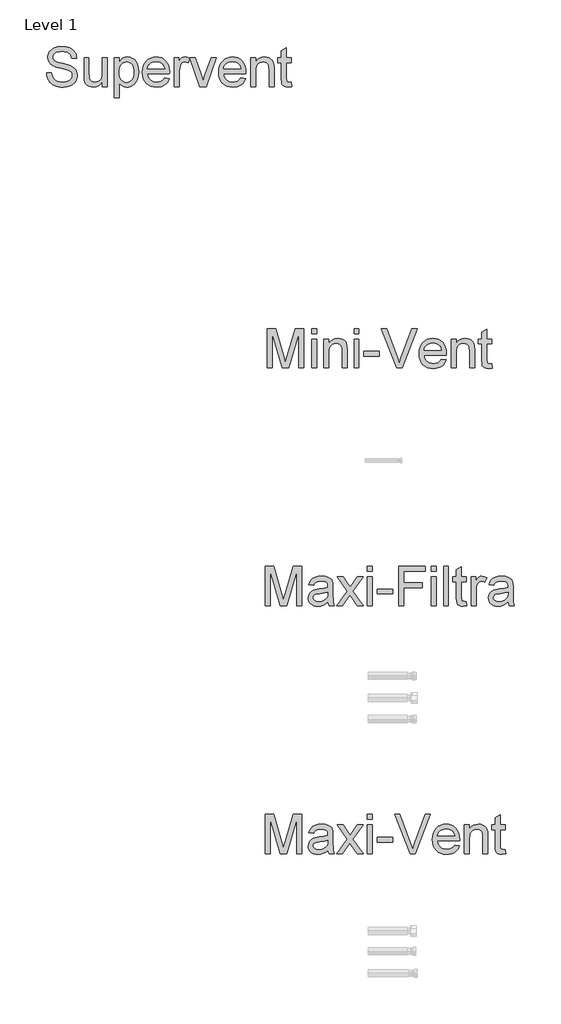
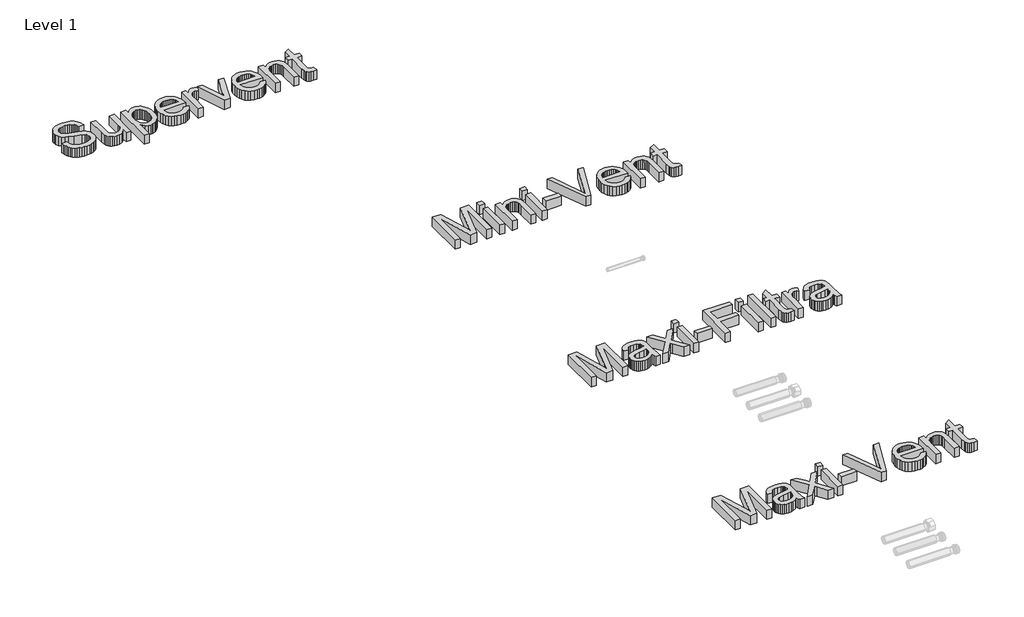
# One storey, part 26 of 29: 4 proxies.
"""IFC4 building model written with IfcOpenShell, lengths in millimetres."""

import ifcopenshell
import ifcopenshell.guid

model = None  # the IFC model being written
_history = None  # IfcOwnerHistory: only IFC2X3 demands one
_inside = {}  # id of a spatial element -> (the spatial element, [elements in it])
_under = {}  # id of a project, library or spatial element -> (it, [spatial elements below it])
_declared = {}  # id of a project -> (the project, [libraries it declares])
_typed = {}  # id of a type object -> (the type object, [elements of that type])
_made_of = {}  # id of a material, layer set ... -> (it, [elements and type objects made of it])


def new_model(schema):
    """Start an empty IFC model of exactly this schema.

    Asked for "IFC4X3", IfcOpenShell would pick the latest addendum, in which some entities
    have other attributes; the version numbers below select the first issue.
    IFC2X3 requires an IfcOwnerHistory on every rooted entity: one is made here for all.
    """
    global model, _history
    if schema == "IFC4X3":
        model = ifcopenshell.file(schema_version=(4, 3, 0, 0))
    else:
        model = ifcopenshell.file(schema=schema)
    _inside.clear()
    _under.clear()
    _declared.clear()
    _typed.clear()
    _made_of.clear()
    _history = None
    if model.schema == "IFC2X3":
        org = make("IfcOrganization", Name="unknown")
        user = make(
            "IfcPersonAndOrganization",
            ThePerson=make("IfcPerson", FamilyName="unknown"),
            TheOrganization=org,
        )
        app = make(
            "IfcApplication",
            ApplicationDeveloper=org,
            Version="unknown",
            ApplicationFullName="unknown",
            ApplicationIdentifier="unknown",
        )
        _history = make(
            "IfcOwnerHistory",
            OwningUser=user,
            OwningApplication=app,
            ChangeAction="ADDED",
            CreationDate=0,
        )
    return model


def make(cls, **values):
    """One entity of the class cls with the attributes given. An attribute that is None is left unset."""
    return model.create_entity(
        cls, **{name: value for name, value in values.items() if value is not None}
    )


def rooted(cls, **values):
    """An entity with a GlobalId (a new one), such as an element, a storey or a relation."""
    return make(cls, GlobalId=ifcopenshell.guid.new(), OwnerHistory=_history, **values)


def si_unit(unit_type, name, prefix=None):
    """IfcSIUnit, for example si_unit("LENGTHUNIT", "METRE", prefix="MILLI")."""
    return make("IfcSIUnit", UnitType=unit_type, Prefix=prefix, Name=name)


def assignment(units):
    """IfcUnitAssignment: the units of a project."""
    return None if units is None else make("IfcUnitAssignment", Units=units)


def point(xyz):
    """IfcCartesianPoint."""
    return None if xyz is None else make("IfcCartesianPoint", Coordinates=xyz)


def direction(xyz):
    """IfcDirection."""
    return None if xyz is None else make("IfcDirection", DirectionRatios=xyz)


def frame(location, z_axis=None, x_axis=None):
    """IfcAxis2Placement3D, a coordinate frame: its origin and axes. An axis left out is left unset."""
    return make(
        "IfcAxis2Placement3D",
        Location=point(location),
        Axis=direction(z_axis),
        RefDirection=direction(x_axis),
    )


def origin():
    """The frame at (0, 0, 0) with its axes left unset."""
    return frame((0.0, 0.0, 0.0))


def origin_with_axes():
    """The frame at (0, 0, 0) with the z axis (0, 0, 1) and the x axis (1, 0, 0) written out."""
    return frame((0.0, 0.0, 0.0), z_axis=(0.0, 0.0, 1.0), x_axis=(1.0, 0.0, 0.0))


def place(relative_to, where):
    """IfcLocalPlacement: puts the frame where relative to a parent placement (None: the world)."""
    return make(
        "IfcLocalPlacement", PlacementRelTo=relative_to, RelativePlacement=where
    )


def context(
    kind, dimensions, precision=None, world=None, true_north=None, identifier=None
):
    """IfcGeometricRepresentationContext, for example the 3D "Model" context."""
    return make(
        "IfcGeometricRepresentationContext",
        ContextIdentifier=identifier,
        ContextType=kind,
        CoordinateSpaceDimension=dimensions,
        Precision=precision,
        WorldCoordinateSystem=world,
        TrueNorth=true_north,
    )


def project(units=None, contexts=None):
    """IfcProject with its units and contexts."""
    return rooted(
        "IfcProject",
        Name="project",
        RepresentationContexts=contexts,
        UnitsInContext=assignment(units),
    )


def spatial(cls, under=None, at=None, **own):
    """A site, building, storey or space (cls), placed at a placement, below another one or the project."""
    s = rooted(cls, ObjectPlacement=at, **own)
    if under is not None:
        _under.setdefault(under.id(), (under, []))[1].append(s)
    return s


def polyline(points):
    """IfcPolyline through the points."""
    return make("IfcPolyline", Points=[point(p) for p in points])


def outline(outer, holes=None, kind="AREA"):
    """IfcArbitraryClosedProfileDef: a profile drawn as a closed curve; with holes, ...WithVoids."""
    if holes is None:
        return make("IfcArbitraryClosedProfileDef", ProfileType=kind, OuterCurve=outer)
    return make(
        "IfcArbitraryProfileDefWithVoids",
        ProfileType=kind,
        OuterCurve=outer,
        InnerCurves=holes,
    )


def extrude(swept, where, along, depth):
    """IfcExtrudedAreaSolid: the profile swept, set in the frame where, extruded along a direction by depth."""
    return make(
        "IfcExtrudedAreaSolid",
        SweptArea=swept,
        Position=where,
        ExtrudedDirection=direction(along),
        Depth=depth,
    )


def shape(context_of_items, identifier, shape_type, items):
    """IfcShapeRepresentation: the items that make up one representation, for example the "Body"."""
    return make(
        "IfcShapeRepresentation",
        ContextOfItems=context_of_items,
        RepresentationIdentifier=identifier,
        RepresentationType=shape_type,
        Items=items,
    )


def made_of(thing, what):
    """Note that an element or type object is made of a material, layer set ...; save() writes the relation."""
    if what is not None:
        _made_of.setdefault(what.id(), (what, []))[1].append(thing)
    return thing


def element(
    cls,
    number,
    at=None,
    inside=None,
    cuts=None,
    type_object=None,
    material=None,
    context=None,
    identifier="Body",
    shape_type=None,
    held_by="IfcProductDefinitionShape",
    body=None,
    shapes=None,
    **own,
):
    """One element of the class cls, such as IfcWall. Its Tag is "e" and its number.

    at: its placement. inside: the storey or other place that contains it. cuts: it is an
    opening in that element (IfcRelVoidsElement). A single representation is given by context,
    identifier, shape_type and body (its items); several are given by shapes. held_by: the class
    of the entity that holds the representations. save() writes the other relations.
    """
    e = rooted(cls, Tag="e%d" % number, ObjectPlacement=at, **own)
    if body is not None:
        shapes = [shape(context, identifier, shape_type, body)]
    if shapes is not None:
        e.Representation = make(held_by, Representations=shapes)
    if inside is not None:
        _inside.setdefault(inside.id(), (inside, []))[1].append(e)
    if cuts is not None:
        rooted(
            "IfcRelVoidsElement", RelatingBuildingElement=cuts, RelatedOpeningElement=e
        )
    if type_object is not None:
        _typed.setdefault(type_object.id(), (type_object, []))[1].append(e)
    return made_of(e, material)


def aggregate(whole, parts):
    """IfcRelAggregates: a whole, such as a stair, and the parts it consists of."""
    return rooted("IfcRelAggregates", RelatingObject=whole, RelatedObjects=parts)


def save(model, path):
    """Write the relations noted so far, then the file.

    IfcRelAggregates (storeys below a building ...), IfcRelContainedInSpatialStructure (elements
    in a storey), IfcRelDefinesByType, IfcRelAssociatesMaterial and IfcRelDeclares: one each for
    every whole, place, type object, material and project.
    """
    for whole, parts in _under.values():
        aggregate(whole, parts)
    for where, things in _inside.values():
        rooted(
            "IfcRelContainedInSpatialStructure",
            RelatedElements=things,
            RelatingStructure=where,
        )
    for kind, things in _typed.values():
        rooted("IfcRelDefinesByType", RelatedObjects=things, RelatingType=kind)
    for what, things in _made_of.values():
        rooted("IfcRelAssociatesMaterial", RelatedObjects=things, RelatingMaterial=what)
    for by, libraries in _declared.values():
        rooted("IfcRelDeclares", RelatingContext=by, RelatedDefinitions=libraries)
    model.write(path)


model = new_model("IFC4")

# Units and contexts
model_context = context("Model", 3, world=origin())
ifc_project = project(units=[si_unit("LENGTHUNIT", "METRE", prefix="MILLI")], contexts=[model_context])

# Site, building, storey
site = spatial("IfcSite", under=ifc_project)
building = spatial("IfcBuilding", under=site)
storey = spatial("IfcBuildingStorey", under=building, Name="Level 1", Elevation=0.0)

# Proxies
placement = place(None, origin())
element("IfcBuildingElementProxy", 1, Name="600mm Arial", ObjectType="600mm Arial", at=placement, inside=storey, context=model_context, shape_type="SweptSolid", body=[
    extrude(outline(polyline([(41847.6999157, 22137.5950523), (41847.6999157, 22740.3329132), (41977.3415308, 22740.3329132), (42100.6555756, 22315.5027851), (42125.5243984, 22226.7696479), (42152.4533605, 22322.860425), (42273.7072661, 22740.3329132), (42403.3488812, 22740.3329132), (42403.3488812, 22137.5950523), (42328.0066486, 22137.5950523), (42328.0066486, 22664.9906805), (42176.5864194, 22137.5950523), (42074.4623775, 22137.5950523), (41923.0421483, 22664.9906805), (41923.0421483, 22137.5950523), (41847.6999157, 22137.5950523)])), origin_with_axes(), (0.0, 0.0, 1.0), 150.0),
    extrude(outline(polyline([(42808.3133815, 22194.1017267), (42772.3161282, 22163.2364273), (42735.2520172, 22143.0397058), (42696.2749198, 22131.8928813), (42654.5387075, 22128.1772732), (42620.9924681, 22130.4121563), (42591.575704, 22137.1168057), (42566.2884154, 22148.2912213), (42545.1306021, 22163.9354031), (42528.424161, 22183.0560698), (42516.4909888, 22204.65994), (42509.3310855, 22228.7470136), (42506.944451, 22255.3172907), (42510.5496946, 22286.5504721), (42521.3654252, 22314.9141739), (42538.0488737, 22339.1943856), (42559.2572707, 22358.1770966), (42584.1812759, 22372.5244944), (42612.0115488, 22382.8987666), (42677.2002384, 22394.2295321), (42754.2347282, 22406.1489087), (42807.8719231, 22420.1284246), (42808.3133815, 22436.9038435), (42803.1262453, 22470.5282579), (42796.6423252, 22482.9810634), (42787.5648369, 22492.5276012), (42771.8746699, 22502.0557449), (42752.7632002, 22508.8615618), (42704.2763532, 22514.3062153), (42659.3947498, 22510.6825777), (42628.0512038, 22499.8116647), (42606.6772599, 22479.7069137), (42591.7044627, 22448.3817618), (42516.3622301, 22457.7995409), (42529.440435, 22499.0023243), (42548.9565749, 22531.3759399), (42576.7316655, 22556.1343982), (42614.5867228, 22574.4917097), (42660.8846719, 22585.8592634), (42713.9884379, 22589.6484479), (42764.9217001, 22586.3007218), (42805.2967491, 22576.2575433), (42835.7389842, 22561.1559874), (42856.8738048, 22542.633129), (42870.8901089, 22519.7324748), (42879.9767941, 22491.4975316), (42883.6556141, 22425.5730781), (42883.6556141, 22331.8367457), (42887.4815868, 22200.9443318), (42893.1469696, 22168.5891104), (42902.4911722, 22137.5950523), (42827.1489396, 22137.5950523), (42815.0824102, 22163.7882503), (42808.3133815, 22194.1017267)]), holes=[polyline([(42808.3133815, 22344.7861919), (42757.6928189, 22332.2414159), (42686.7651703, 22321.6832027), (42621.9443627, 22309.4695204), (42605.0769732, 22301.1185991), (42592.5873795, 22289.6038927), (42584.8618576, 22275.8083179), (42582.2866836, 22260.6147915), (42587.8968841, 22238.2107779), (42604.7274853, 22219.8534664), (42632.4106055, 22207.6029959), (42670.5783625, 22203.5195058), (42711.0453819, 22208.0260602), (42746.8035119, 22221.5457236), (42775.7926131, 22241.4665336), (42795.9525464, 22265.1765282), (42804.8920789, 22289.6038927), (42807.8719231, 22323.4490362), (42808.3133815, 22344.7861919)])]), origin_with_axes(), (0.0, 0.0, 1.0), 150.0),
    extrude(outline(polyline([(42940.1622885, 22137.5950523), (43101.1474496, 22360.0900829), (42949.5800676, 22580.2306689), (43040.2261912, 22580.2306689), (43113.3611319, 22474.2806542), (43147.500581, 22424.2487029), (43177.0782934, 22465.1571808), (43260.3667771, 22580.2306689), (43351.0129008, 22580.2306689), (43191.7935732, 22360.0900829), (43345.1267888, 22137.5950523), (43254.4806652, 22137.5950523), (43162.2158608, 22271.3569457), (43145.2932891, 22295.7843102), (43030.8084122, 22137.5950523), (42940.1622885, 22137.5950523)])), origin_with_axes(), (0.0, 0.0, 1.0), 150.0),
    extrude(outline(polyline([(43411.0512424, 22664.9906805), (43411.0512424, 22740.3329132), (43486.393475, 22740.3329132), (43486.393475, 22664.9906805), (43411.0512424, 22664.9906805)])), origin_with_axes(), (0.0, 0.0, 1.0), 150.0),
    extrude(outline(polyline([(43411.0512424, 22137.5950523), (43411.0512424, 22580.2306689), (43486.393475, 22580.2306689), (43486.393475, 22137.5950523), (43411.0512424, 22137.5950523)])), origin_with_axes(), (0.0, 0.0, 1.0), 150.0),
    extrude(outline(polyline([(43561.7357076, 22316.5328547), (43561.7357076, 22391.8750873), (43797.1801845, 22391.8750873), (43797.1801845, 22316.5328547), (43561.7357076, 22316.5328547)])), origin_with_axes(), (0.0, 0.0, 1.0), 150.0),
    extrude(outline(polyline([(43891.3579753, 22137.5950523), (43891.3579753, 22740.3329132), (44296.3224756, 22740.3329132), (44296.3224756, 22664.9906805), (43966.7002079, 22664.9906805), (43966.7002079, 22486.0528781), (44249.2335802, 22486.0528781), (44249.2335802, 22410.7106455), (43966.7002079, 22410.7106455), (43966.7002079, 22137.5950523), (43891.3579753, 22137.5950523)])), origin_with_axes(), (0.0, 0.0, 1.0), 150.0),
    extrude(outline(polyline([(44390.5002663, 22137.5950523), (44390.5002663, 22580.2306689), (44465.8424989, 22580.2306689), (44465.8424989, 22137.5950523), (44390.5002663, 22137.5950523)])), origin_with_axes(), (0.0, 0.0, 1.0), 150.0),
    extrude(outline(polyline([(44390.5002663, 22664.9906805), (44390.5002663, 22740.3329132), (44465.8424989, 22740.3329132), (44465.8424989, 22664.9906805), (44390.5002663, 22664.9906805)])), origin_with_axes(), (0.0, 0.0, 1.0), 150.0),
    extrude(outline(polyline([(44578.8558479, 22137.5950523), (44578.8558479, 22740.3329132), (44654.1980805, 22740.3329132), (44654.1980805, 22137.5950523), (44578.8558479, 22137.5950523)])), origin_with_axes(), (0.0, 0.0, 1.0), 150.0),
    extrude(outline(polyline([(44927.3136737, 22200.429297), (44936.7314528, 22135.3877603), (44880.3719311, 22128.1772732), (44844.209131, 22131.3042701), (44817.2433807, 22140.685261), (44798.1870934, 22155.1430234), (44785.7526819, 22173.500335), (44778.9100768, 22205.027822), (44776.6292085, 22258.9961107), (44776.6292085, 22504.8884362), (44720.122534, 22504.8884362), (44720.122534, 22580.2306689), (44776.6292085, 22580.2306689), (44776.6292085, 22687.7993642), (44851.9714411, 22732.0923565), (44851.9714411, 22580.2306689), (44927.3136737, 22580.2306689), (44927.3136737, 22504.8884362), (44851.9714411, 22504.8884362), (44851.9714411, 22261.2034026), (44855.9445666, 22222.355064), (44868.8204365, 22208.5962773), (44879.6913494, 22204.7886987), (44894.4985997, 22203.5195058), (44927.3136737, 22200.429297)])), origin_with_axes(), (0.0, 0.0, 1.0), 150.0),
    extrude(outline(polyline([(45002.6559063, 22137.5950523), (45002.6559063, 22580.2306689), (45068.5803598, 22580.2306689), (45068.5803598, 22514.7476737), (45092.9341479, 22552.7130956), (45115.3749496, 22575.0803209), (45137.8893277, 22586.0064162), (45162.463845, 22589.6484479), (45199.9878085, 22583.8359124), (45238.1003832, 22566.3983058), (45212.9372547, 22498.8551715), (45186.4497511, 22510.4434544), (45159.9622474, 22514.3062153), (45137.4662634, 22510.5906072), (45117.3615124, 22499.4437827), (45101.1195223, 22481.7118706), (45090.2118212, 22458.2409993), (45081.0515595, 22416.155299), (45077.9981389, 22370.243626), (45077.9981389, 22137.5950523), (45002.6559063, 22137.5950523)])), origin_with_axes(), (0.0, 0.0, 1.0), 150.0),
    extrude(outline(polyline([(45567.7226509, 22194.1017267), (45531.7253977, 22163.2364273), (45494.6612867, 22143.0397058), (45455.6841893, 22131.8928813), (45413.9479769, 22128.1772732), (45380.4017375, 22130.4121563), (45350.9849734, 22137.1168057), (45325.6976848, 22148.2912213), (45304.5398715, 22163.9354031), (45287.8334304, 22183.0560698), (45275.9002582, 22204.65994), (45268.7403549, 22228.7470136), (45266.3537204, 22255.3172907), (45269.958964, 22286.5504721), (45280.7746947, 22314.9141739), (45297.4581431, 22339.1943856), (45318.6665402, 22358.1770966), (45343.5905453, 22372.5244944), (45371.4208183, 22382.8987666), (45436.6095078, 22394.2295321), (45513.6439976, 22406.1489087), (45567.2811925, 22420.1284246), (45567.7226509, 22436.9038435), (45562.5355148, 22470.5282579), (45556.0515946, 22482.9810634), (45546.9741064, 22492.5276012), (45531.2839393, 22502.0557449), (45512.1724696, 22508.8615618), (45463.6856227, 22514.3062153), (45418.8040192, 22510.6825777), (45387.4604733, 22499.8116647), (45366.0865293, 22479.7069137), (45351.1137321, 22448.3817618), (45275.7714995, 22457.7995409), (45288.8497045, 22499.0023243), (45308.3658443, 22531.3759399), (45336.1409349, 22556.1343982), (45373.9959922, 22574.4917097), (45420.2939413, 22585.8592634), (45473.3977073, 22589.6484479), (45524.3309696, 22586.3007218), (45564.7060185, 22576.2575433), (45595.1482536, 22561.1559874), (45616.2830743, 22542.633129), (45630.2993783, 22519.7324748), (45639.3860636, 22491.4975316), (45643.0648835, 22425.5730781), (45643.0648835, 22331.8367457), (45646.8908563, 22200.9443318), (45652.556239, 22168.5891104), (45661.9004417, 22137.5950523), (45586.558209, 22137.5950523), (45574.4916796, 22163.7882503), (45567.7226509, 22194.1017267)]), holes=[polyline([(45567.7226509, 22344.7861919), (45517.1020884, 22332.2414159), (45446.1744397, 22321.6832027), (45381.3536321, 22309.4695204), (45364.4862427, 22301.1185991), (45351.9966489, 22289.6038927), (45344.271127, 22275.8083179), (45341.6959531, 22260.6147915), (45347.3061535, 22238.2107779), (45364.1367548, 22219.8534664), (45391.8198749, 22207.6029959), (45429.9876319, 22203.5195058), (45470.4546514, 22208.0260602), (45506.2127813, 22221.5457236), (45535.2018825, 22241.4665336), (45555.3618159, 22265.1765282), (45564.3013483, 22289.6038927), (45567.2811925, 22323.4490362), (45567.7226509, 22344.7861919)])]), origin_with_axes(), (0.0, 0.0, 1.0), 150.0),
])
element("IfcBuildingElementProxy", 2, Name="600mm Arial", ObjectType="600mm Arial", at=placement, inside=storey, context=model_context, shape_type="SweptSolid", body=[
    extrude(outline(polyline([(41847.6999157, 18337.5950523), (41847.6999157, 18940.3329132), (41977.3415308, 18940.3329132), (42100.6555756, 18515.5027851), (42125.5243984, 18426.7696479), (42152.4533605, 18522.860425), (42273.7072661, 18940.3329132), (42403.3488812, 18940.3329132), (42403.3488812, 18337.5950523), (42328.0066486, 18337.5950523), (42328.0066486, 18864.9906805), (42176.5864194, 18337.5950523), (42074.4623775, 18337.5950523), (41923.0421483, 18864.9906805), (41923.0421483, 18337.5950523), (41847.6999157, 18337.5950523)])), origin_with_axes(), (0.0, 0.0, 1.0), 150.0),
    extrude(outline(polyline([(42808.3133815, 18394.1017267), (42772.3161282, 18363.2364273), (42735.2520172, 18343.0397058), (42696.2749198, 18331.8928813), (42654.5387075, 18328.1772732), (42620.9924681, 18330.4121563), (42591.575704, 18337.1168057), (42566.2884154, 18348.2912213), (42545.1306021, 18363.9354031), (42528.424161, 18383.0560698), (42516.4909888, 18404.65994), (42509.3310855, 18428.7470136), (42506.944451, 18455.3172907), (42510.5496946, 18486.5504721), (42521.3654252, 18514.9141739), (42538.0488737, 18539.1943856), (42559.2572707, 18558.1770966), (42584.1812759, 18572.5244944), (42612.0115488, 18582.8987666), (42677.2002384, 18594.2295321), (42754.2347282, 18606.1489087), (42807.8719231, 18620.1284246), (42808.3133815, 18636.9038435), (42803.1262453, 18670.5282579), (42796.6423252, 18682.9810634), (42787.5648369, 18692.5276012), (42771.8746699, 18702.0557449), (42752.7632002, 18708.8615618), (42704.2763532, 18714.3062153), (42659.3947498, 18710.6825777), (42628.0512038, 18699.8116647), (42606.6772599, 18679.7069137), (42591.7044627, 18648.3817618), (42516.3622301, 18657.7995409), (42529.440435, 18699.0023243), (42548.9565749, 18731.3759399), (42576.7316655, 18756.1343982), (42614.5867228, 18774.4917097), (42660.8846719, 18785.8592634), (42713.9884379, 18789.6484479), (42764.9217001, 18786.3007218), (42805.2967491, 18776.2575433), (42835.7389842, 18761.1559874), (42856.8738048, 18742.633129), (42870.8901089, 18719.7324748), (42879.9767941, 18691.4975316), (42883.6556141, 18625.5730781), (42883.6556141, 18531.8367457), (42887.4815868, 18400.9443318), (42893.1469696, 18368.5891104), (42902.4911722, 18337.5950523), (42827.1489396, 18337.5950523), (42815.0824102, 18363.7882503), (42808.3133815, 18394.1017267)]), holes=[polyline([(42808.3133815, 18544.7861919), (42757.6928189, 18532.2414159), (42686.7651703, 18521.6832027), (42621.9443627, 18509.4695204), (42605.0769732, 18501.1185991), (42592.5873795, 18489.6038927), (42584.8618576, 18475.8083179), (42582.2866836, 18460.6147915), (42587.8968841, 18438.2107779), (42604.7274853, 18419.8534664), (42632.4106055, 18407.6029959), (42670.5783625, 18403.5195058), (42711.0453819, 18408.0260602), (42746.8035119, 18421.5457236), (42775.7926131, 18441.4665336), (42795.9525464, 18465.1765282), (42804.8920789, 18489.6038927), (42807.8719231, 18523.4490362), (42808.3133815, 18544.7861919)])]), origin_with_axes(), (0.0, 0.0, 1.0), 150.0),
    extrude(outline(polyline([(42940.1622885, 18337.5950523), (43101.1474496, 18560.0900829), (42949.5800676, 18780.2306689), (43040.2261912, 18780.2306689), (43113.3611319, 18674.2806542), (43147.500581, 18624.2487029), (43177.0782934, 18665.1571808), (43260.3667771, 18780.2306689), (43351.0129008, 18780.2306689), (43191.7935732, 18560.0900829), (43345.1267888, 18337.5950523), (43254.4806652, 18337.5950523), (43162.2158608, 18471.3569457), (43145.2932891, 18495.7843102), (43030.8084122, 18337.5950523), (42940.1622885, 18337.5950523)])), origin_with_axes(), (0.0, 0.0, 1.0), 150.0),
    extrude(outline(polyline([(43411.0512424, 18864.9906805), (43411.0512424, 18940.3329132), (43486.393475, 18940.3329132), (43486.393475, 18864.9906805), (43411.0512424, 18864.9906805)])), origin_with_axes(), (0.0, 0.0, 1.0), 150.0),
    extrude(outline(polyline([(43411.0512424, 18337.5950523), (43411.0512424, 18780.2306689), (43486.393475, 18780.2306689), (43486.393475, 18337.5950523), (43411.0512424, 18337.5950523)])), origin_with_axes(), (0.0, 0.0, 1.0), 150.0),
    extrude(outline(polyline([(43561.7357076, 18516.5328547), (43561.7357076, 18591.8750873), (43797.1801845, 18591.8750873), (43797.1801845, 18516.5328547), (43561.7357076, 18516.5328547)])), origin_with_axes(), (0.0, 0.0, 1.0), 150.0),
    extrude(outline(polyline([(44069.4128609, 18337.5950523), (43829.5538001, 18940.3329132), (43910.1935334, 18940.3329132), (44070.7372361, 18506.0850061), (44103.2580045, 18408.2283953), (44135.3373145, 18506.0850061), (44296.3224756, 18940.3329132), (44376.9622089, 18940.3329132), (44147.2566911, 18337.5950523), (44069.4128609, 18337.5950523)])), origin_with_axes(), (0.0, 0.0, 1.0), 150.0),
    extrude(outline(polyline([(44747.4929544, 18469.4439593), (44821.3636591, 18460.0261803), (44810.0374922, 18430.4392708), (44794.7473967, 18404.3656344), (44775.4933728, 18381.805271), (44752.2754204, 18362.7581807), (44725.3326628, 18347.6290337), (44694.9042232, 18336.8225001), (44660.9901018, 18330.3385799), (44623.5902985, 18328.1772732), (44576.8416939, 18331.9066769), (44535.188255, 18343.0948881), (44498.6299818, 18361.7419067), (44467.1668741, 18387.8477328), (44441.8657899, 18420.6857994), (44423.7935869, 18459.5295396), (44412.9502651, 18504.3789533), (44409.3358245, 18555.2340406), (44412.9870533, 18607.8135748), (44423.9407397, 18654.1575091), (44442.1968837, 18694.2658436), (44467.7554853, 18728.1385783), (44499.1358195, 18755.0491463), (44534.8571612, 18774.2709805), (44574.9195105, 18785.8040811), (44619.3228673, 18789.6484479), (44662.2960829, 18785.8132781), (44701.1582172, 18774.3077687), (44735.9092701, 18755.1319197), (44766.5492418, 18728.2857311), (44791.5606189, 18694.4865728), (44809.4258883, 18654.4518147), (44820.14505, 18608.1814568), (44823.7181038, 18555.675499), (44823.2766455, 18535.3684129), (44484.6780571, 18535.3684129), (44489.0420573, 18505.3032568), (44497.7194738, 18478.972103), (44510.7103068, 18456.3749515), (44528.0145561, 18437.5118022), (44548.6757287, 18422.6401725), (44571.7373313, 18412.0175799), (44597.1993638, 18405.6440243), (44625.0618265, 18403.5195058), (44665.1609639, 18407.4558431), (44698.9325311, 18419.2648552), (44726.3765279, 18439.6823059), (44747.4929544, 18469.4439593)]), holes=[polyline([(44484.6780571, 18610.7106455), (44748.3758712, 18610.7106455), (44738.18554, 18650.5154774), (44729.4207514, 18666.1688563), (44718.2095476, 18678.9895438), (44697.6633382, 18694.4405876), (44674.2844374, 18705.4770474), (44648.0728453, 18712.0989234), (44619.0285617, 18714.3062153), (44592.5364596, 18712.5449803), (44568.2424523, 18707.2612751), (44546.14654, 18698.4550999), (44526.2487225, 18686.1264545), (44509.5514785, 18670.8455561), (44497.0572862, 18653.1826218), (44488.7661458, 18633.1376516), (44484.6780571, 18610.7106455)])]), origin_with_axes(), (0.0, 0.0, 1.0), 150.0),
    extrude(outline(polyline([(44899.0603365, 18337.5950523), (44899.0603365, 18780.2306689), (44974.4025691, 18780.2306689), (44974.4025691, 18718.4264937), (45000.577373, 18749.5860987), (45032.0128895, 18771.8429594), (45068.7091185, 18785.1970758), (45110.6660601, 18789.6484479), (45147.8037475, 18786.0615985), (45181.814438, 18775.3010501), (45210.1781398, 18758.7095721), (45230.3748613, 18737.6299338), (45244.0784656, 18712.1173175), (45252.9628158, 18682.2269053), (45256.9359414, 18609.3862703), (45256.9359414, 18337.5950523), (45181.5937088, 18337.5950523), (45181.5937088, 18599.2327272), (45179.423205, 18638.1914305), (45172.9116937, 18665.8929448), (45160.9003465, 18685.7401784), (45142.2303353, 18701.1360399), (45118.2996115, 18711.0136715), (45090.5061268, 18714.3062153), (45067.6284652, 18712.4576083), (45046.3786814, 18706.9117872), (45026.7567755, 18697.6687521), (45008.7627474, 18684.7285029), (44993.7301694, 18666.6195117), (44982.9926137, 18641.8702505), (44976.5500802, 18610.4807192), (44974.4025691, 18572.450918), (44974.4025691, 18337.5950523), (44899.0603365, 18337.5950523)])), origin_with_axes(), (0.0, 0.0, 1.0), 150.0),
    extrude(outline(polyline([(45520.6337555, 18400.429297), (45530.0515346, 18335.3877603), (45473.6920129, 18328.1772732), (45437.5292128, 18331.3042701), (45410.5634626, 18340.685261), (45391.5071752, 18355.1430234), (45379.0727638, 18373.500335), (45372.2301587, 18405.027822), (45369.9492903, 18458.9961107), (45369.9492903, 18704.8884362), (45313.4426158, 18704.8884362), (45313.4426158, 18780.2306689), (45369.9492903, 18780.2306689), (45369.9492903, 18887.7993642), (45445.2915229, 18932.0923565), (45445.2915229, 18780.2306689), (45520.6337555, 18780.2306689), (45520.6337555, 18704.8884362), (45445.2915229, 18704.8884362), (45445.2915229, 18461.2034026), (45449.2646484, 18422.355064), (45462.1405183, 18408.5962773), (45473.0114312, 18404.7886987), (45487.8186815, 18403.5195058), (45520.6337555, 18400.429297)])), origin_with_axes(), (0.0, 0.0, 1.0), 150.0),
])
element("IfcBuildingElementProxy", 3, Name="600mm Arial", ObjectType="600mm Arial", at=placement, inside=storey, context=model_context, shape_type="SweptSolid", body=[
    extrude(outline(polyline([(41879.5231168, 25779.1748039), (41879.5231168, 26381.9126648), (42009.1647319, 26381.9126648), (42132.4787767, 25957.0825368), (42157.3475995, 25868.3493996), (42184.2765616, 25964.4401767), (42305.5304672, 26381.9126648), (42435.1720823, 26381.9126648), (42435.1720823, 25779.1748039), (42359.8298497, 25779.1748039), (42359.8298497, 26306.5704322), (42208.4096205, 25779.1748039), (42106.2855786, 25779.1748039), (41954.8653494, 26306.5704322), (41954.8653494, 25779.1748039), (41879.5231168, 25779.1748039)])), origin_with_axes(), (0.0, 0.0, 1.0), 150.0),
    extrude(outline(polyline([(42557.6032103, 25779.1748039), (42557.6032103, 26221.8104205), (42632.9454429, 26221.8104205), (42632.9454429, 25779.1748039), (42557.6032103, 25779.1748039)])), origin_with_axes(), (0.0, 0.0, 1.0), 150.0),
    extrude(outline(polyline([(42557.6032103, 26306.5704322), (42557.6032103, 26381.9126648), (42632.9454429, 26381.9126648), (42632.9454429, 26306.5704322), (42557.6032103, 26306.5704322)])), origin_with_axes(), (0.0, 0.0, 1.0), 150.0),
    extrude(outline(polyline([(42745.9587918, 25779.1748039), (42745.9587918, 26221.8104205), (42821.3010244, 26221.8104205), (42821.3010244, 26160.0062453), (42847.4758284, 26191.1658503), (42878.9113449, 26213.422711), (42915.6075739, 26226.7768275), (42957.5645154, 26231.2281996), (42994.7022029, 26227.6413502), (43028.7128933, 26216.8808018), (43057.0765951, 26200.2893238), (43077.2733167, 26179.2096855), (43090.976921, 26153.6970691), (43099.8612712, 26123.806657), (43103.8343967, 26050.966022), (43103.8343967, 25779.1748039), (43028.4921641, 25779.1748039), (43028.4921641, 26040.8124789), (43026.3216603, 26079.7711822), (43019.810149, 26107.4726964), (43007.7988019, 26127.3199301), (42989.1287906, 26142.7157916), (42965.1980668, 26152.5934231), (42937.4045821, 26155.885967), (42914.5269205, 26154.03736), (42893.2771368, 26148.4915389), (42873.6552309, 26139.2485038), (42855.6612028, 26126.3082546), (42840.6286247, 26108.1992634), (42829.891069, 26083.4500022), (42823.4485356, 26052.0604709), (42821.3010244, 26014.0306697), (42821.3010244, 25779.1748039), (42745.9587918, 25779.1748039)])), origin_with_axes(), (0.0, 0.0, 1.0), 150.0),
    extrude(outline(polyline([(43207.4299666, 25779.1748039), (43207.4299666, 26221.8104205), (43282.7721992, 26221.8104205), (43282.7721992, 25779.1748039), (43207.4299666, 25779.1748039)])), origin_with_axes(), (0.0, 0.0, 1.0), 150.0),
    extrude(outline(polyline([(43207.4299666, 26306.5704322), (43207.4299666, 26381.9126648), (43282.7721992, 26381.9126648), (43282.7721992, 26306.5704322), (43207.4299666, 26306.5704322)])), origin_with_axes(), (0.0, 0.0, 1.0), 150.0),
    extrude(outline(polyline([(43358.1144318, 25958.1126064), (43358.1144318, 26033.454839), (43593.5589087, 26033.454839), (43593.5589087, 25958.1126064), (43358.1144318, 25958.1126064)])), origin_with_axes(), (0.0, 0.0, 1.0), 150.0),
    extrude(outline(polyline([(43865.7915851, 25779.1748039), (43625.9325243, 26381.9126648), (43706.5722576, 26381.9126648), (43867.1159603, 25947.6647577), (43899.6367287, 25849.808147), (43931.7160387, 25947.6647577), (44092.7011998, 26381.9126648), (44173.3409331, 26381.9126648), (43943.6354153, 25779.1748039), (43865.7915851, 25779.1748039)])), origin_with_axes(), (0.0, 0.0, 1.0), 150.0),
    extrude(outline(polyline([(44543.8716786, 25911.023711), (44617.7423833, 25901.6059319), (44606.4162163, 25872.0190225), (44591.1261209, 25845.9453861), (44571.872097, 25823.3850227), (44548.6541446, 25804.3379324), (44521.711387, 25789.2087854), (44491.2829474, 25778.4022518), (44457.368826, 25771.9183316), (44419.9690227, 25769.7570249), (44373.2204181, 25773.4864286), (44331.5669792, 25784.6746398), (44295.008706, 25803.3216584), (44263.5455983, 25829.4274845), (44238.2445141, 25862.2655511), (44220.1723111, 25901.1092912), (44209.3289893, 25945.958705), (44205.7145487, 25996.8137923), (44209.3657775, 26049.3933264), (44220.3194639, 26095.7372608), (44238.5756079, 26135.8455953), (44264.1342095, 26169.71833), (44295.5145437, 26196.628898), (44331.2358854, 26215.8507322), (44371.2982347, 26227.3838328), (44415.7015915, 26231.2281996), (44458.6748071, 26227.3930298), (44497.5369413, 26215.8875204), (44532.2879943, 26196.7116714), (44562.927966, 26169.8654828), (44587.9393431, 26136.0663245), (44605.8046125, 26096.0315664), (44616.5237742, 26049.7612084), (44620.096828, 25997.2552507), (44619.6553696, 25976.9481645), (44281.0567813, 25976.9481645), (44285.4207815, 25946.8830085), (44294.098198, 25920.5518547), (44307.089031, 25897.9547031), (44324.3932803, 25879.0915538), (44345.0544529, 25864.2199242), (44368.1160554, 25853.5973316), (44393.578088, 25847.223776), (44421.4405506, 25845.0992575), (44461.5396881, 25849.0355948), (44495.3112553, 25860.8446069), (44522.7552521, 25881.2620576), (44543.8716786, 25911.023711)]), holes=[polyline([(44281.0567813, 26052.2903972), (44544.7545954, 26052.2903972), (44534.5642642, 26092.095229), (44525.7994756, 26107.7486079), (44514.5882718, 26120.5692955), (44494.0420624, 26136.0203393), (44470.6631616, 26147.0567991), (44444.4515694, 26153.678675), (44415.4072859, 26155.885967), (44388.9151837, 26154.1247319), (44364.6211765, 26148.8410268), (44342.5252642, 26140.0348515), (44322.6274467, 26127.7062062), (44305.9302027, 26112.4253078), (44293.4360104, 26094.7623735), (44285.14487, 26074.7174033), (44281.0567813, 26052.2903972)])]), origin_with_axes(), (0.0, 0.0, 1.0), 150.0),
    extrude(outline(polyline([(44695.4390607, 25779.1748039), (44695.4390607, 26221.8104205), (44770.7812933, 26221.8104205), (44770.7812933, 26160.0062453), (44796.9560972, 26191.1658503), (44828.3916137, 26213.422711), (44865.0878427, 26226.7768275), (44907.0447843, 26231.2281996), (44944.1824717, 26227.6413502), (44978.1931621, 26216.8808018), (45006.556864, 26200.2893238), (45026.7535855, 26179.2096855), (45040.4571898, 26153.6970691), (45049.34154, 26123.806657), (45053.3146656, 26050.966022), (45053.3146656, 25779.1748039), (44977.9724329, 25779.1748039), (44977.9724329, 26040.8124789), (44975.8019292, 26079.7711822), (44969.2904179, 26107.4726964), (44957.2790707, 26127.3199301), (44938.6090595, 26142.7157916), (44914.6783357, 26152.5934231), (44886.8848509, 26155.885967), (44864.0071894, 26154.03736), (44842.7574056, 26148.4915389), (44823.1354997, 26139.2485038), (44805.1414716, 26126.3082546), (44790.1088936, 26108.1992634), (44779.3713379, 26083.4500022), (44772.9288044, 26052.0604709), (44770.7812933, 26014.0306697), (44770.7812933, 25779.1748039), (44695.4390607, 25779.1748039)])), origin_with_axes(), (0.0, 0.0, 1.0), 150.0),
    extrude(outline(polyline([(45317.0124797, 25842.0090487), (45326.4302588, 25776.967512), (45270.0707371, 25769.7570249), (45233.907937, 25772.8840218), (45206.9421867, 25782.2650127), (45187.8858994, 25796.7227751), (45175.451488, 25815.0800867), (45168.6088829, 25846.6075737), (45166.3280145, 25900.5758623), (45166.3280145, 26146.4681879), (45109.82134, 26146.4681879), (45109.82134, 26221.8104205), (45166.3280145, 26221.8104205), (45166.3280145, 26329.3791159), (45241.6702471, 26373.6721081), (45241.6702471, 26221.8104205), (45317.0124797, 26221.8104205), (45317.0124797, 26146.4681879), (45241.6702471, 26146.4681879), (45241.6702471, 25902.7831543), (45245.6433726, 25863.9348156), (45258.5192425, 25850.176029), (45269.3901554, 25846.3684504), (45284.1974057, 25845.0992575), (45317.0124797, 25842.0090487)])), origin_with_axes(), (0.0, 0.0, 1.0), 150.0),
])
element("IfcBuildingElementProxy", 4, Name="600mm Arial", ObjectType="600mm Arial", at=placement, inside=storey, context=model_context, shape_type="SweptSolid", body=[
    extrude(outline(polyline([(38497.4834675, 30297.4059032), (38572.8257001, 30297.4059032), (38581.470927, 30255.5961145), (38597.1059117, 30221.9900942), (38621.496488, 30195.3186495), (38656.4084894, 30174.3125876), (38699.0828008, 30160.6825597), (38746.7603074, 30156.1392171), (38788.735643, 30159.5789137), (38825.4870544, 30169.8980037), (38855.2671019, 30186.2319643), (38876.3283461, 30207.7162728), (38888.854728, 30232.3827606), (38893.0301887, 30258.2632589), (38889.9031917, 30283.4815697), (38880.5222008, 30305.2785779), (38861.4659135, 30323.8750128), (38829.3130271, 30339.4916035), (38719.6106161, 30368.2599755), (38647.5977156, 30387.2978687), (38601.5204957, 30405.416057), (38564.0149263, 30430.7631265), (38537.4354521, 30461.4812731), (38521.5981322, 30496.9083092), (38516.3190256, 30536.3820473), (38517.951502, 30558.8182505), (38522.848931, 30580.5094926), (38531.0113128, 30601.4557737), (38542.4386473, 30621.6570938), (38557.0021757, 30640.2903168), (38574.5731395, 30656.5323069), (38595.1515386, 30670.383064), (38618.7373731, 30681.8425882), (38671.7491686, 30697.2384497), (38730.4263468, 30702.3704035), (38793.9963556, 30696.9993264), (38849.6201132, 30680.886095), (38873.9555072, 30668.8839449), (38895.311057, 30654.3618031), (38913.6867627, 30637.3196697), (38929.0826242, 30617.7575446), (38941.3790799, 30596.2456449), (38950.4565681, 30573.3541878), (38956.3150889, 30549.0831732), (38958.9546422, 30523.432601), (38883.6124096, 30523.432601), (38878.5724263, 30547.4736894), (38869.7800466, 30568.3877809), (38857.2352705, 30586.1748753), (38840.9380981, 30600.8349728), (38820.5850268, 30612.294497), (38795.8725537, 30620.4798714), (38766.8006791, 30625.391096), (38733.3694028, 30627.0281709), (38698.8712687, 30625.4094901), (38669.3947238, 30620.5534478), (38644.9397682, 30612.4600439), (38625.5064018, 30601.1292784), (38610.6991515, 30587.5084476), (38600.1225441, 30572.5448474), (38593.7765797, 30556.238478), (38591.6612582, 30538.5893392), (38593.1603773, 30523.4050099), (38597.6577347, 30509.6370262), (38605.1533304, 30497.2853882), (38615.6471643, 30486.3500959), (38632.1650659, 30475.9942178), (38658.1743229, 30465.527975), (38738.6669035, 30444.2643957), (38821.734658, 30424.0676741), (38871.9873385, 30406.4461266), (38914.9375615, 30379.1124943), (38931.542835, 30363.0452482), (38944.90155, 30345.3777154), (38955.1700562, 30326.2018664), (38962.5047035, 30305.6096717), (38968.3724213, 30260.1762453), (38966.6847626, 30236.608805), (38961.6217867, 30213.7311434), (38953.1834934, 30191.5432606), (38941.3698828, 30170.0451565), (38926.3878886, 30150.0691641), (38908.4444443, 30132.4476166), (38887.5395499, 30117.1805138), (38863.6732055, 30104.2678557), (38837.5397882, 30093.9993495), (38809.8336755, 30086.6647023), (38749.7033633, 30080.7969844), (38711.1631258, 30082.378877), (38675.887841, 30087.1245548), (38643.8775089, 30095.0340177), (38615.1321295, 30106.1072657), (38589.4769589, 30120.362693), (38566.737253, 30137.8186937), (38546.913012, 30158.4752677), (38530.0042358, 30182.3324151), (38516.383405, 30208.6175837), (38506.4229999, 30236.5582212), (38500.1230208, 30266.1543277), (38497.4834675, 30297.4059032)])), origin_with_axes(), (0.0, 0.0, 1.0), 150.0),
    extrude(outline(polyline([(39354.5013634, 30090.2147635), (39354.5013634, 30166.2927601), (39327.2413076, 30128.8883583), (39295.4930914, 30102.1709284), (39259.2567149, 30086.1404704), (39218.532178, 30080.7969844), (39181.835949, 30084.5493808), (39147.6781057, 30095.8065698), (39119.0200983, 30112.7291416), (39098.8233768, 30133.4776862), (39085.230137, 30158.6776028), (39076.3825751, 30188.954291), (39071.9679911, 30258.9990229), (39071.9679911, 30532.8503801), (39147.3102237, 30532.8503801), (39147.3102237, 30294.4628472), (39148.4506579, 30246.7853407), (39151.8719605, 30217.6490866), (39162.853238, 30192.0261057), (39181.6704021, 30172.546754), (39207.0726538, 30160.2411013), (39237.8091945, 30156.1392171), (39270.3115688, 30160.3330718), (39300.7170157, 30172.914636), (39325.7881737, 30192.7250815), (39342.2876812, 30218.6055798), (39351.4479429, 30254.0510101), (39354.5013634, 30302.5562511), (39354.5013634, 30532.8503801), (39429.843596, 30532.8503801), (39429.843596, 30090.2147635), (39354.5013634, 30090.2147635)])), origin_with_axes(), (0.0, 0.0, 1.0), 150.0),
    extrude(outline(polyline([(39533.4391659, 29920.6947401), (39533.4391659, 30532.8503801), (39608.7813985, 30532.8503801), (39608.7813985, 30458.9796755), (39633.3559158, 30495.4183871), (39660.873489, 30521.4460383), (39692.952799, 30537.062629), (39731.2125265, 30542.2681592), (39757.488498, 30540.4471433), (39782.1641828, 30534.9840957), (39805.239581, 30525.8790163), (39826.7146924, 30513.1319052), (39846.1204677, 30497.0738561), (39862.9878571, 30478.0359628), (39877.3168609, 30456.0182254), (39889.1074788, 30431.0206439), (39904.8896164, 30375.5072508), (39910.1503289, 30314.9170862), (39904.2090347, 30250.4825547), (39896.7824169, 30220.8174703), (39886.385152, 30192.8538402), (39873.1597943, 30167.3228297), (39857.248898, 30144.9556044), (39838.6524632, 30125.7521643), (39817.3704897, 30109.7125093), (39794.4468429, 30097.0619672), (39770.9253879, 30088.0258656), (39746.8061245, 30082.6042047), (39722.089053, 30080.7969844), (39687.4529632, 30085.6346327), (39656.5324815, 30100.1475774), (39630.0633719, 30122.0549502), (39608.7813985, 30149.0758827), (39608.7813985, 29920.6947401), (39533.4391659, 29920.6947401)]), holes=[polyline([(39608.7813985, 30308.0009047), (39610.818545, 30271.6909517), (39616.9299847, 30240.4577704), (39627.1157174, 30214.3013605), (39641.3757433, 30193.2217222), (39658.5420369, 30176.9981262), (39677.4465729, 30165.4098433), (39698.0893513, 30158.4568736), (39720.4703722, 30156.1392171), (39743.1732898, 30158.5396471), (39764.1931473, 30165.7409371), (39783.5299447, 30177.7430872), (39801.183682, 30194.5460974), (39815.8943632, 30216.3890908), (39826.4019927, 30243.5111909), (39832.7065704, 30275.9123976), (39834.8080963, 30313.592711), (39832.7571542, 30349.5899642), (39826.6043278, 30380.7679633), (39816.3496172, 30407.1267083), (39801.9930223, 30428.6661991), (39784.785342, 30445.4048299), (39765.977375, 30457.3609947), (39745.5691213, 30464.5346936), (39723.560581, 30466.9259266), (39701.6210185, 30464.3829423), (39680.97824, 30456.7539894), (39661.6322456, 30444.039068), (39643.5830352, 30426.2381779), (39628.3573191, 30403.5904426), (39617.4818077, 30376.3349853), (39610.9565008, 30344.471806), (39608.7813985, 30308.0009047)])]), origin_with_axes(), (0.0, 0.0, 1.0), 150.0),
    extrude(outline(polyline([(40304.8141334, 30222.0636706), (40378.684838, 30212.6458915), (40367.3586711, 30183.0589821), (40352.0685756, 30156.9853456), (40332.8145517, 30134.4249823), (40309.5965993, 30115.377892), (40282.6538417, 30100.2487449), (40252.2254021, 30089.4422113), (40218.3112807, 30082.9582912), (40180.9114774, 30080.7969844), (40134.1628728, 30084.5263882), (40092.5094339, 30095.7145993), (40055.9511607, 30114.361618), (40024.488053, 30140.4674441), (39999.1869688, 30173.3055107), (39981.1147658, 30212.1492508), (39970.271444, 30256.9986646), (39966.6570034, 30307.8537519), (39970.3082322, 30360.433286), (39981.2619186, 30406.7772204), (39999.5180626, 30446.8855549), (40025.0766642, 30480.7582896), (40056.4569984, 30507.6688575), (40092.1783401, 30526.8906918), (40132.2406894, 30538.4237923), (40176.6440462, 30542.2681592), (40219.6172618, 30538.4329894), (40258.4793961, 30526.92748), (40293.230449, 30507.751631), (40323.8704207, 30480.9054424), (40348.8817979, 30447.1062841), (40366.7470672, 30407.071526), (40377.4662289, 30360.801168), (40381.0392828, 30308.2952103), (40380.5978244, 30287.9881241), (40041.999236, 30287.9881241), (40046.3632362, 30257.9229681), (40055.0406527, 30231.5918143), (40068.0314857, 30208.9946627), (40085.335735, 30190.1315134), (40105.9969076, 30175.2598838), (40129.0585102, 30164.6372911), (40154.5205428, 30158.2637356), (40182.3830054, 30156.1392171), (40222.4821428, 30160.0755544), (40256.25371, 30171.8845664), (40283.6977068, 30192.3020172), (40304.8141334, 30222.0636706)]), holes=[polyline([(40041.999236, 30363.3303567), (40305.6970501, 30363.3303567), (40295.5067189, 30403.1351886), (40286.7419303, 30418.7885675), (40275.5307265, 30431.609255), (40254.9845171, 30447.0602988), (40231.6056163, 30458.0967587), (40205.3940242, 30464.7186346), (40176.3497406, 30466.9259266), (40149.8576385, 30465.1646915), (40125.5636312, 30459.8809864), (40103.4677189, 30451.0748111), (40083.5699015, 30438.7461658), (40066.8726574, 30423.4652674), (40054.3784651, 30405.8023331), (40046.0873247, 30385.7573629), (40041.999236, 30363.3303567)])]), origin_with_axes(), (0.0, 0.0, 1.0), 150.0),
    extrude(outline(polyline([(40456.3815154, 30090.2147635), (40456.3815154, 30532.8503801), (40522.3059689, 30532.8503801), (40522.3059689, 30467.367385), (40546.659757, 30505.3328069), (40569.1005587, 30527.7000322), (40591.6149368, 30538.6261274), (40616.1894541, 30542.2681592), (40653.7134176, 30536.4556237), (40691.8259923, 30519.0180171), (40666.6628638, 30451.4748828), (40640.1753602, 30463.0631656), (40613.6878565, 30466.9259266), (40591.1918725, 30463.2103184), (40571.0871215, 30452.063494), (40554.8451314, 30434.3315818), (40543.9374302, 30410.8607105), (40534.7771685, 30368.7750103), (40531.723748, 30322.8633373), (40531.723748, 30090.2147635), (40456.3815154, 30090.2147635)])), origin_with_axes(), (0.0, 0.0, 1.0), 150.0),
    extrude(outline(polyline([(40847.5136526, 30090.2147635), (40691.8259923, 30532.8503801), (40771.5828088, 30532.8503801), (40865.9077524, 30267.681038), (40894.3082424, 30178.5064424), (40922.1201213, 30262.6778429), (41017.033676, 30532.8503801), (41096.7904926, 30532.8503801), (40943.0158186, 30090.2147635), (40847.5136526, 30090.2147635)])), origin_with_axes(), (0.0, 0.0, 1.0), 150.0),
    extrude(outline(polyline([(41472.6187388, 30222.0636706), (41546.4894435, 30212.6458915), (41535.1632766, 30183.0589821), (41519.8731811, 30156.9853456), (41500.6191572, 30134.4249823), (41477.4012048, 30115.377892), (41450.4584472, 30100.2487449), (41420.0300076, 30089.4422113), (41386.1158862, 30082.9582912), (41348.7160829, 30080.7969844), (41301.9674783, 30084.5263882), (41260.3140394, 30095.7145993), (41223.7557662, 30114.361618), (41192.2926585, 30140.4674441), (41166.9915743, 30173.3055107), (41148.9193713, 30212.1492508), (41138.0760495, 30256.9986646), (41134.4616089, 30307.8537519), (41138.1128377, 30360.433286), (41149.0665241, 30406.7772204), (41167.3226681, 30446.8855549), (41192.8812697, 30480.7582896), (41224.2616039, 30507.6688575), (41259.9829456, 30526.8906918), (41300.0452949, 30538.4237923), (41344.4486517, 30542.2681592), (41387.4218673, 30538.4329894), (41426.2840016, 30526.92748), (41461.0350545, 30507.751631), (41491.6750262, 30480.9054424), (41516.6864033, 30447.1062841), (41534.5516727, 30407.071526), (41545.2708344, 30360.801168), (41548.8438882, 30308.2952103), (41548.4024299, 30287.9881241), (41209.8038415, 30287.9881241), (41214.1678417, 30257.9229681), (41222.8452582, 30231.5918143), (41235.8360912, 30208.9946627), (41253.1403405, 30190.1315134), (41273.8015131, 30175.2598838), (41296.8631156, 30164.6372911), (41322.3251482, 30158.2637356), (41350.1876109, 30156.1392171), (41390.2867483, 30160.0755544), (41424.0583155, 30171.8845664), (41451.5023123, 30192.3020172), (41472.6187388, 30222.0636706)]), holes=[polyline([(41209.8038415, 30363.3303567), (41473.5016556, 30363.3303567), (41463.3113244, 30403.1351886), (41454.5465358, 30418.7885675), (41443.335332, 30431.609255), (41422.7891226, 30447.0602988), (41399.4102218, 30458.0967587), (41373.1986296, 30464.7186346), (41344.1543461, 30466.9259266), (41317.662244, 30465.1646915), (41293.3682367, 30459.8809864), (41271.2723244, 30451.0748111), (41251.3745069, 30438.7461658), (41234.6772629, 30423.4652674), (41222.1830706, 30405.8023331), (41213.8919302, 30385.7573629), (41209.8038415, 30363.3303567)])]), origin_with_axes(), (0.0, 0.0, 1.0), 150.0),
    extrude(outline(polyline([(41624.1861209, 30090.2147635), (41624.1861209, 30532.8503801), (41699.5283535, 30532.8503801), (41699.5283535, 30471.0462049), (41725.7031574, 30502.2058099), (41757.1386739, 30524.4626706), (41793.8349029, 30537.8167871), (41835.7918445, 30542.2681592), (41872.9295319, 30538.6813097), (41906.9402224, 30527.9207614), (41935.3039242, 30511.3292834), (41955.5006457, 30490.2496451), (41969.20425, 30464.7370287), (41978.0886002, 30434.8466166), (41982.0617258, 30362.0059816), (41982.0617258, 30090.2147635), (41906.7194932, 30090.2147635), (41906.7194932, 30351.8524385), (41904.5489894, 30390.8111418), (41898.0374781, 30418.512656), (41886.0261309, 30438.3598897), (41867.3561197, 30453.7557512), (41843.4253959, 30463.6333827), (41815.6319111, 30466.9259266), (41792.7542496, 30465.0773196), (41771.5044658, 30459.5314985), (41751.8825599, 30450.2884633), (41733.8885318, 30437.3482142), (41718.8559538, 30419.239223), (41708.1183981, 30394.4899617), (41701.6758646, 30363.1004305), (41699.5283535, 30325.0706292), (41699.5283535, 30090.2147635), (41624.1861209, 30090.2147635)])), origin_with_axes(), (0.0, 0.0, 1.0), 150.0),
    extrude(outline(polyline([(42245.7595399, 30153.0490083), (42255.177319, 30088.0074715), (42198.8177973, 30080.7969844), (42162.6549972, 30083.9239814), (42135.689247, 30093.3049723), (42116.6329596, 30107.7627347), (42104.1985482, 30126.1200462), (42097.3559431, 30157.6475332), (42095.0750747, 30211.6158219), (42095.0750747, 30457.5081475), (42038.5684002, 30457.5081475), (42038.5684002, 30532.8503801), (42095.0750747, 30532.8503801), (42095.0750747, 30640.4190755), (42170.4173073, 30684.7120677), (42170.4173073, 30532.8503801), (42245.7595399, 30532.8503801), (42245.7595399, 30457.5081475), (42170.4173073, 30457.5081475), (42170.4173073, 30213.8231139), (42174.3904328, 30174.9747752), (42187.2663027, 30161.2159886), (42198.1372156, 30157.4084099), (42212.9444659, 30156.1392171), (42245.7595399, 30153.0490083)])), origin_with_axes(), (0.0, 0.0, 1.0), 150.0),
])

save(model, "model.ifc")
